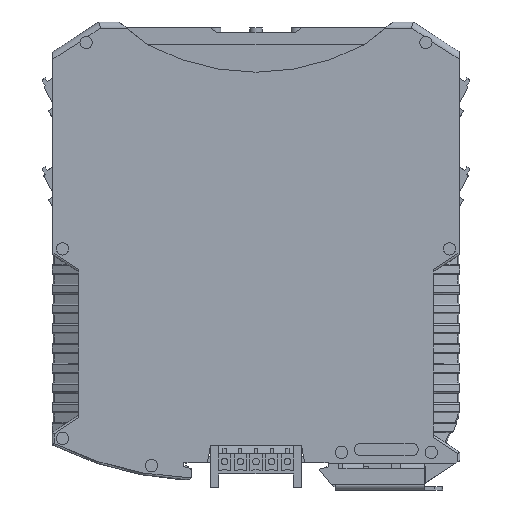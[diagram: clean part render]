
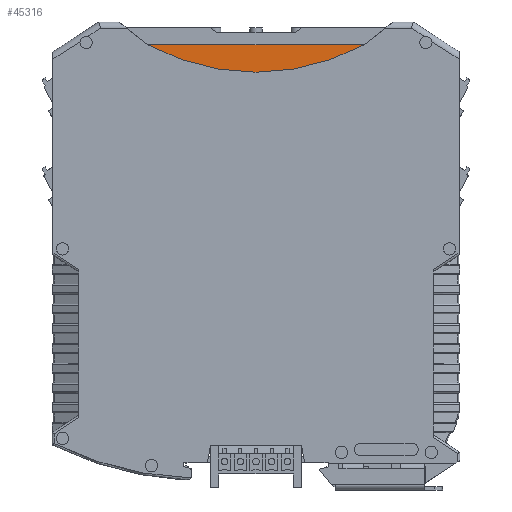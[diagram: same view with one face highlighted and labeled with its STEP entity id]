
A CAD part, left-side view. The second image highlights one B-rep face of the part: STEP entity #45316.
In plain terms, the highlighted planar face has unit normal (-1, 0, 0) as drawn and (0, 0, -1) by its records, which use the part's own axes.
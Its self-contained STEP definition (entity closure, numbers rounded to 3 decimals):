
#13352=DIRECTION('',(-1.,0.,0.));
#13353=VECTOR('',#13352,52.561);
#13354=CARTESIAN_POINT('',(26.281,101.5,0.2));
#13355=LINE('',#13354,#13353);
#13373=CARTESIAN_POINT('',(0.,149.693,
0.2));
#13374=DIRECTION('',(0.,0.,-1.));
#13375=DIRECTION('',(0.479,-0.878,0.));
#13376=AXIS2_PLACEMENT_3D('',#13373,#13374,#13375);
#32476=CARTESIAN_POINT('',(26.281,101.5,0.2));
#32477=CARTESIAN_POINT('',(-26.281,101.5,0.2));
#32478=VERTEX_POINT('',#32476);
#32479=VERTEX_POINT('',#32477);
#45306=CARTESIAN_POINT('',(9.818,99.329,
0.2));
#45307=DIRECTION('',(0.,0.,-1.));
#45308=DIRECTION('',(-1.,0.,0.));
#45309=AXIS2_PLACEMENT_3D('',#45306,#45307,#45308);
#45310=PLANE('',#45309);
#45311=ORIENTED_EDGE('',*,*,#45291,.T.);
#45313=ORIENTED_EDGE('',*,*,#45312,.F.);
#45314=EDGE_LOOP('',(#45311,#45313));
#45315=FACE_OUTER_BOUND('',#45314,.F.);
#13377=CIRCLE('',#13376,54.893);
#45291=EDGE_CURVE('',#32478,#32479,#13355,.T.);
#45312=EDGE_CURVE('',#32478,#32479,#13377,.T.);
#45316=ADVANCED_FACE('',(#45315),#45310,.T.);
